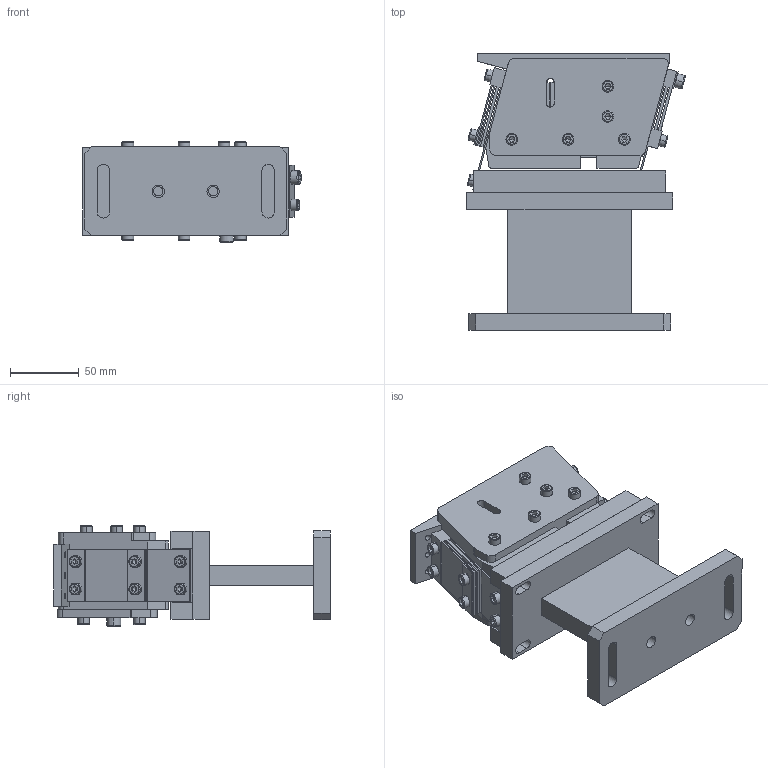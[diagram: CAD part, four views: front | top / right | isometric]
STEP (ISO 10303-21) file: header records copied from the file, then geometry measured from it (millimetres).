
FILE_DESCRIPTION (( 'STEP AP203' ), '1' );
FILE_NAME ('ZW140 眻盄 恁饜盓殤01.STEP', '2025-06-01T04:57:28', ( '' ), ( '' ), 'SwSTEP 2.0', 'SolidWorks 2022', '' );
FILE_SCHEMA (( 'CONFIG_CONTROL_DESIGN' ));
Length unit declared in the file: millimetre
Products named in the file (1): ZW140 眻盄  恁饜盓殤01
Bounding box: 159.16 x 201.38 x 73 mm (x, y, z)
Volume: 1055043.5 mm3; surface area: 186293.5 mm2
Topology: 17 solids, 24 shells, 860 faces, 2101 edges, 1308 vertices
Faces by surface type: plane 525, cylinder 225, cone 66, torus 44
Entity records: 25147 total; most frequent: DIRECTION 4503, CARTESIAN_POINT 4332, ORIENTED_EDGE 4114, EDGE_CURVE 2057, AXIS2_PLACEMENT_3D 1606, VERTEX_POINT 1308, LINE 1291, VECTOR 1291
